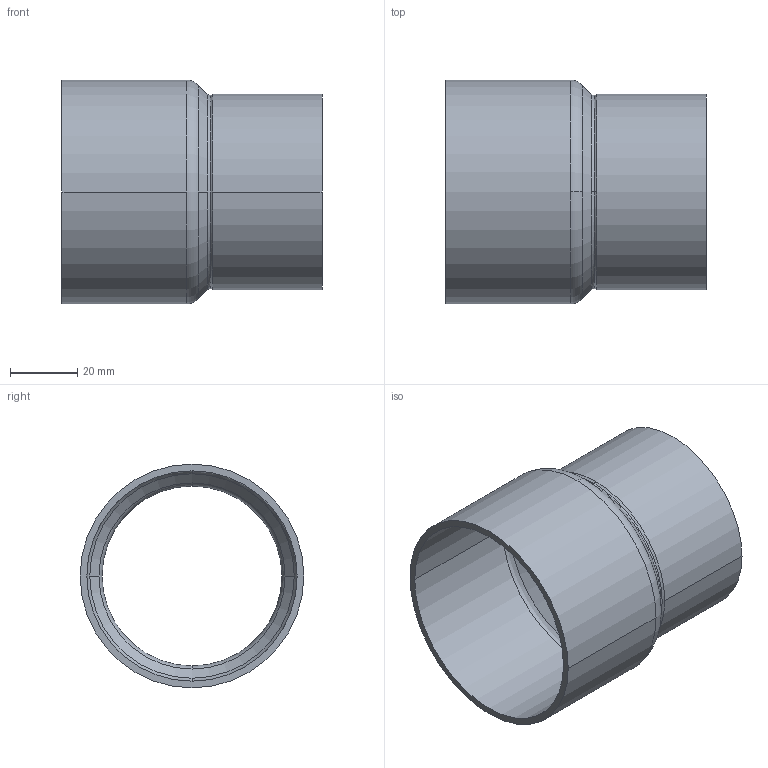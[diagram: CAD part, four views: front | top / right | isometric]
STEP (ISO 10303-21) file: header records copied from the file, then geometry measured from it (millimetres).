
FILE_DESCRIPTION((''),'2;1');
FILE_NAME('G:\Technics\CAD\Bauteile\Serie 15243\152436754.stp','2005-10-21T12:49:50',('boden'),(''),'Autodesk Inventor 8','Autodesk Inventor 8','');
FILE_SCHEMA(('AUTOMOTIVE_DESIGN { 1 0 10303 214 1 1 1 1 }'));
Length unit declared in the file: millimetre
Products named in the file (1): 152436754
Bounding box: 77.5 x 66.7 x 66.7 mm (x, y, z)
Volume: 30165.2 mm3; surface area: 30926.5 mm2
Topology: 1 solids, 1 shells, 26 faces, 68 edges, 44 vertices
Faces by surface type: cylinder 8, torus 6, bspline 6, cone 4, plane 2
Entity records: 1103 total; most frequent: CARTESIAN_POINT 403, DIRECTION 166, ORIENTED_EDGE 136, AXIS2_PLACEMENT_3D 77, EDGE_CURVE 68, CIRCLE 56, VERTEX_POINT 44, EDGE_LOOP 28
